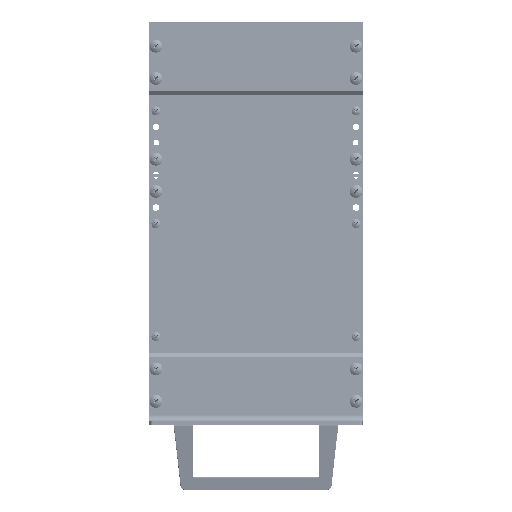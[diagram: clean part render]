
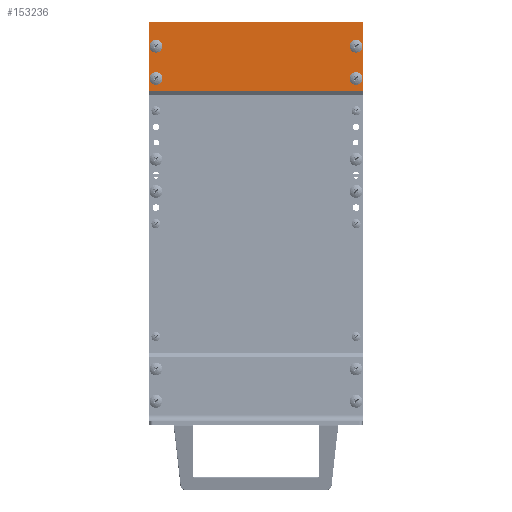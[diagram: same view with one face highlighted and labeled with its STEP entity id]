
A CAD part, left-side view. The second image highlights one B-rep face of the part: STEP entity #153236.
In plain terms, the highlighted planar face has unit normal (-1, 0, 0) as drawn and (0, 1, 0) by its records, which use the part's own axes.
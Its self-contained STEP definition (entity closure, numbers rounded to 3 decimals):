
#3352 = DIRECTION ( 'NONE',  ( 0., 0., 1. ) ) ;
#7309 = VERTEX_POINT ( 'NONE', #70207 ) ;
#7940 = CARTESIAN_POINT ( 'NONE',  ( 1362.678, 509.334, 128. ) ) ;
#8918 = DIRECTION ( 'NONE',  ( -1., 0., 0. ) ) ;
#11197 = FACE_BOUND ( 'NONE', #137028, .T. ) ;
#15583 = CARTESIAN_POINT ( 'NONE',  ( 1328.128, 509.334, 132. ) ) ;
#15994 = FACE_OUTER_BOUND ( 'NONE', #40261, .T. ) ;
#17027 = VECTOR ( 'NONE', #93702, 1000. ) ;
#18135 = DIRECTION ( 'NONE',  ( 0., 1., 0. ) ) ;
#20677 = CARTESIAN_POINT ( 'NONE',  ( 1360.628, 509.334, 128. ) ) ;
#21230 = EDGE_CURVE ( 'NONE', #192203, #199775, #186629, .T. ) ;
#22668 = DIRECTION ( 'NONE',  ( -1., 0., 0. ) ) ;
#24173 = DIRECTION ( 'NONE',  ( 0., 1., 0. ) ) ;
#24402 = EDGE_CURVE ( 'NONE', #123382, #62697, #116181, .T. ) ;
#26259 = ORIENTED_EDGE ( 'NONE', *, *, #100070, .T. ) ;
#26832 = AXIS2_PLACEMENT_3D ( 'NONE', #73504, #88424, #181325 ) ;
#27517 = EDGE_CURVE ( 'NONE', #170163, #172658, #64098, .T. ) ;
#32335 = CARTESIAN_POINT ( 'NONE',  ( 1325.628, 509.334, 0. ) ) ;
#34540 = ORIENTED_EDGE ( 'NONE', *, *, #79261, .T. ) ;
#35346 = FACE_BOUND ( 'NONE', #164833, .T. ) ;
#37808 = ORIENTED_EDGE ( 'NONE', *, *, #63734, .F. ) ;
#40261 = EDGE_LOOP ( 'NONE', ( #26259, #34540, #164380, #102899 ) ) ;
#40585 = DIRECTION ( 'NONE',  ( 0., 1., 0. ) ) ;
#48486 = CARTESIAN_POINT ( 'NONE',  ( 1360.628, 509.334, 4. ) ) ;
#48847 = CARTESIAN_POINT ( 'NONE',  ( 1328.128, 509.334, 132. ) ) ;
#54994 = CARTESIAN_POINT ( 'NONE',  ( 1325.628, 509.334, 132. ) ) ;
#58240 = CARTESIAN_POINT ( 'NONE',  ( 1338.578, 509.334, 4. ) ) ;
#61141 = AXIS2_PLACEMENT_3D ( 'NONE', #99947, #40585, #131620 ) ;
#62697 = VERTEX_POINT ( 'NONE', #58240 ) ;
#63734 = EDGE_CURVE ( 'NONE', #103786, #106849, #160604, .T. ) ;
#64098 = CIRCLE ( 'NONE', #80517, 2.05 ) ;
#69511 = EDGE_CURVE ( 'NONE', #149074, #111136, #148720, .T. ) ;
#70207 = CARTESIAN_POINT ( 'NONE',  ( 1325.628, 509.334, 0. ) ) ;
#71519 = FACE_BOUND ( 'NONE', #141656, .T. ) ;
#73504 = CARTESIAN_POINT ( 'NONE',  ( 1360.628, 509.334, 4. ) ) ;
#73919 = DIRECTION ( 'NONE',  ( -1., 0., 0. ) ) ;
#73984 = CARTESIAN_POINT ( 'NONE',  ( 1340.628, 509.334, 4. ) ) ;
#75789 = LINE ( 'NONE', #166247, #107159 ) ;
#76260 = DIRECTION ( 'NONE',  ( -1., 0., 0. ) ) ;
#77168 = DIRECTION ( 'NONE',  ( 1., 0., 0. ) ) ;
#78849 = CARTESIAN_POINT ( 'NONE',  ( 1368.128, 509.334, 132. ) ) ;
#79261 = EDGE_CURVE ( 'NONE', #7309, #199775, #89088, .T. ) ;
#79441 = ORIENTED_EDGE ( 'NONE', *, *, #27517, .F. ) ;
#80517 = AXIS2_PLACEMENT_3D ( 'NONE', #48486, #18135, #156325 ) ;
#82611 = AXIS2_PLACEMENT_3D ( 'NONE', #73984, #198520, #152827 ) ;
#84397 = CARTESIAN_POINT ( 'NONE',  ( 1368.128, 509.334, 132. ) ) ;
#88424 = DIRECTION ( 'NONE',  ( 0., 1., 0. ) ) ;
#89088 = LINE ( 'NONE', #32335, #132388 ) ;
#90665 = ORIENTED_EDGE ( 'NONE', *, *, #188223, .F. ) ;
#93702 = DIRECTION ( 'NONE',  ( 0., 0., -1. ) ) ;
#96241 = EDGE_CURVE ( 'NONE', #106849, #103786, #120927, .T. ) ;
#99947 = CARTESIAN_POINT ( 'NONE',  ( 1340.628, 509.334, 4. ) ) ;
#100070 = EDGE_CURVE ( 'NONE', #172720, #7309, #75789, .T. ) ;
#102899 = ORIENTED_EDGE ( 'NONE', *, *, #162909, .T. ) ;
#103786 = VERTEX_POINT ( 'NONE', #140593 ) ;
#103914 = LINE ( 'NONE', #78849, #17027 ) ;
#106718 = DIRECTION ( 'NONE',  ( -1., 0., 0. ) ) ;
#106849 = VERTEX_POINT ( 'NONE', #7940 ) ;
#107159 = VECTOR ( 'NONE', #73919, 1000. ) ;
#107394 = CARTESIAN_POINT ( 'NONE',  ( 1358.578, 509.334, 4. ) ) ;
#108350 = AXIS2_PLACEMENT_3D ( 'NONE', #184793, #123586, #106718 ) ;
#111136 = VERTEX_POINT ( 'NONE', #150636 ) ;
#114073 = CARTESIAN_POINT ( 'NONE',  ( 1342.678, 509.334, 4. ) ) ;
#116181 = CIRCLE ( 'NONE', #82611, 2.05 ) ;
#116581 = CARTESIAN_POINT ( 'NONE',  ( 1360.628, 509.334, 128. ) ) ;
#119329 = VECTOR ( 'NONE', #76260, 1000. ) ;
#119561 = CARTESIAN_POINT ( 'NONE',  ( 1362.678, 509.334, 4. ) ) ;
#120927 = CIRCLE ( 'NONE', #130732, 2.05 ) ;
#123382 = VERTEX_POINT ( 'NONE', #114073 ) ;
#123586 = DIRECTION ( 'NONE',  ( 0., 1., 0. ) ) ;
#124275 = CIRCLE ( 'NONE', #61141, 2.05 ) ;
#128927 = DIRECTION ( 'NONE',  ( 0., 1., 0. ) ) ;
#130732 = AXIS2_PLACEMENT_3D ( 'NONE', #20677, #192402, #22668 ) ;
#131620 = DIRECTION ( 'NONE',  ( 1., 0., 0. ) ) ;
#132046 = DIRECTION ( 'NONE',  ( -1., 0., 0. ) ) ;
#132388 = VECTOR ( 'NONE', #3352, 1000. ) ;
#132725 = ORIENTED_EDGE ( 'NONE', *, *, #96241, .F. ) ;
#137028 = EDGE_LOOP ( 'NONE', ( #79441, #90665 ) ) ;
#138590 = EDGE_CURVE ( 'NONE', #111136, #149074, #190391, .T. ) ;
#140152 = EDGE_LOOP ( 'NONE', ( #170333, #145827 ) ) ;
#140593 = CARTESIAN_POINT ( 'NONE',  ( 1358.578, 509.334, 128. ) ) ;
#141656 = EDGE_LOOP ( 'NONE', ( #191558, #142192 ) ) ;
#142192 = ORIENTED_EDGE ( 'NONE', *, *, #138590, .F. ) ;
#145827 = ORIENTED_EDGE ( 'NONE', *, *, #24402, .F. ) ;
#148720 = CIRCLE ( 'NONE', #108350, 2.05 ) ;
#149074 = VERTEX_POINT ( 'NONE', #164376 ) ;
#150636 = CARTESIAN_POINT ( 'NONE',  ( 1342.678, 509.334, 128. ) ) ;
#152827 = DIRECTION ( 'NONE',  ( 1., 0., 0. ) ) ;
#153236 = ADVANCED_FACE ( 'NONE', ( #153496, #11197, #35346, #71519, #15994 ), #169502, .F. ) ;
#153496 = FACE_BOUND ( 'NONE', #140152, .T. ) ;
#156325 = DIRECTION ( 'NONE',  ( 1., 0., 0. ) ) ;
#160543 = CARTESIAN_POINT ( 'NONE',  ( 1340.628, 509.334, 128. ) ) ;
#160604 = CIRCLE ( 'NONE', #165553, 2.05 ) ;
#162909 = EDGE_CURVE ( 'NONE', #192203, #172720, #103914, .T. ) ;
#164135 = AXIS2_PLACEMENT_3D ( 'NONE', #48847, #170176, #77168 ) ;
#164376 = CARTESIAN_POINT ( 'NONE',  ( 1338.578, 509.334, 128. ) ) ;
#164380 = ORIENTED_EDGE ( 'NONE', *, *, #21230, .F. ) ;
#164833 = EDGE_LOOP ( 'NONE', ( #37808, #132725 ) ) ;
#165326 = AXIS2_PLACEMENT_3D ( 'NONE', #160543, #128927, #8918 ) ;
#165553 = AXIS2_PLACEMENT_3D ( 'NONE', #116581, #24173, #132046 ) ;
#165957 = CARTESIAN_POINT ( 'NONE',  ( 1368.128, 509.334, 0. ) ) ;
#166247 = CARTESIAN_POINT ( 'NONE',  ( 1328.128, 509.334, 0. ) ) ;
#169502 = PLANE ( 'NONE',  #164135 ) ;
#170163 = VERTEX_POINT ( 'NONE', #107394 ) ;
#170176 = DIRECTION ( 'NONE',  ( 0., -1., 0. ) ) ;
#170333 = ORIENTED_EDGE ( 'NONE', *, *, #170408, .F. ) ;
#170408 = EDGE_CURVE ( 'NONE', #62697, #123382, #124275, .T. ) ;
#172658 = VERTEX_POINT ( 'NONE', #119561 ) ;
#172720 = VERTEX_POINT ( 'NONE', #165957 ) ;
#181325 = DIRECTION ( 'NONE',  ( 1., 0., 0. ) ) ;
#184793 = CARTESIAN_POINT ( 'NONE',  ( 1340.628, 509.334, 128. ) ) ;
#186629 = LINE ( 'NONE', #15583, #119329 ) ;
#188223 = EDGE_CURVE ( 'NONE', #172658, #170163, #194358, .T. ) ;
#190391 = CIRCLE ( 'NONE', #165326, 2.05 ) ;
#191558 = ORIENTED_EDGE ( 'NONE', *, *, #69511, .F. ) ;
#192203 = VERTEX_POINT ( 'NONE', #84397 ) ;
#192402 = DIRECTION ( 'NONE',  ( 0., 1., 0. ) ) ;
#194358 = CIRCLE ( 'NONE', #26832, 2.05 ) ;
#198520 = DIRECTION ( 'NONE',  ( 0., 1., 0. ) ) ;
#199775 = VERTEX_POINT ( 'NONE', #54994 ) ;
